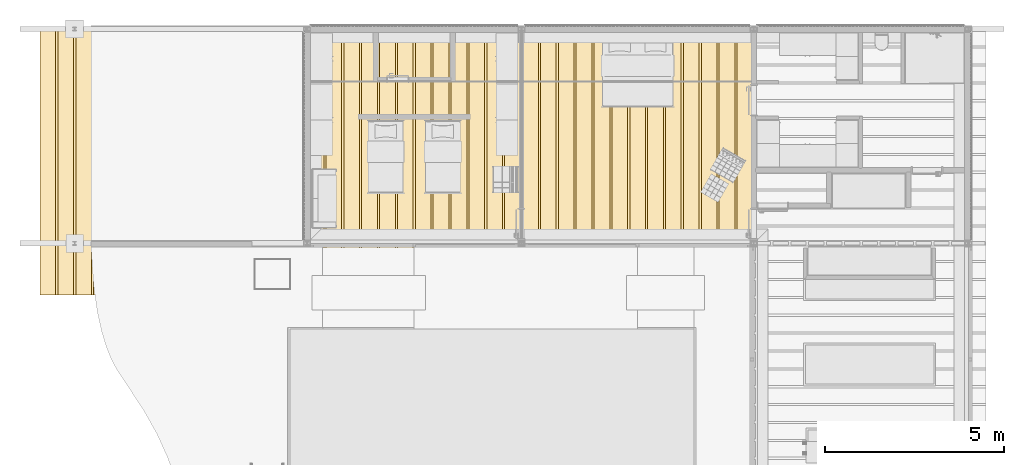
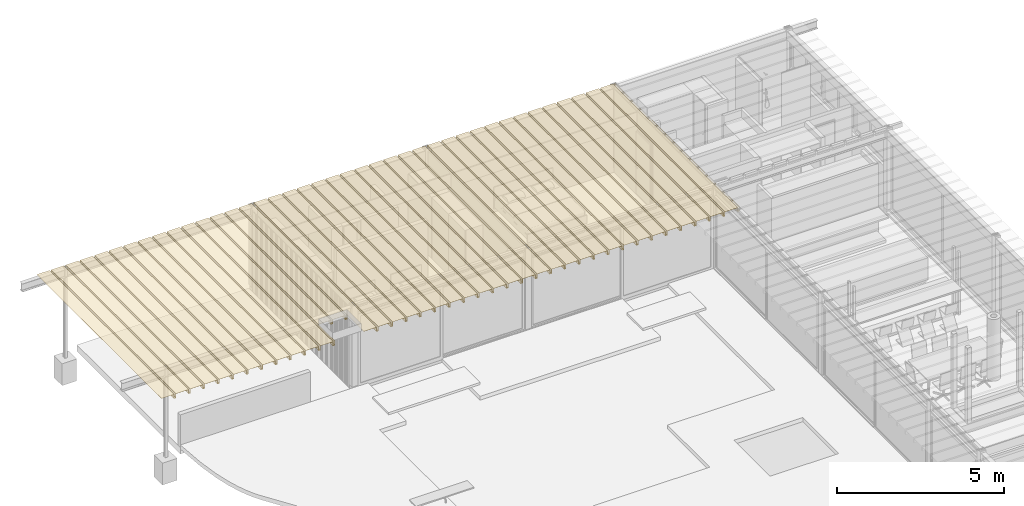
# One storey, part 19 of 28: 1 covering.
"""IFC4X3_ADD2 building model written with IfcOpenShell, lengths in metres."""

from ifc_helpers import new_model, si_unit, direction, frame, origin_with_axes, place, context, subcontext, project, spatial, polyline, outline, extrude, source, transform, mapped, material, type_object, type_shapes, element, save


model = new_model("IFC4X3_ADD2")

# Units and contexts
model_context = context("Model", 3, precision=1e-05, world=origin_with_axes(), true_north=direction((0.0, 1.0)))
body_context = subcontext(model_context, "Body", "Model", "MODEL_VIEW")
ifc_project = project(units=[si_unit("LENGTHUNIT", "METRE"), si_unit("AREAUNIT", "SQUARE_METRE"), si_unit("VOLUMEUNIT", "CUBIC_METRE"), si_unit("PLANEANGLEUNIT", "RADIAN"), si_unit("TIMEUNIT", "SECOND"), si_unit("MASSUNIT", "GRAM")], contexts=[model_context])

# Site, building, storey
site_placement = place(None, origin_with_axes())
site = spatial("IfcSite", under=ifc_project, at=site_placement, Name="Site", CompositionType="ELEMENT")
building_placement = place(site_placement, origin_with_axes())
building = spatial("IfcBuilding", under=site, at=building_placement, Name="Default Building")
storey_placement = place(building_placement, frame((0.0, 0.0, -0.08), z_axis=(0.0, 0.0, 1.0), x_axis=(1.0, 0.0, 0.0)))
storey = spatial("IfcBuildingStorey", under=building, at=storey_placement, Name="Gruendung", Elevation=-0.08)

# Covering
ifc_material = material(Name="Default")
covering_type = type_object("IfcCoveringType", Name="IfcCovering", PredefinedType="NOTDEFINED")
shared_shape = source(origin_with_axes(), body_context, "Body", "SweptSolid", [
    extrude(outline(polyline([(0.1289999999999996, 0.09600000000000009), (0.1289999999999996, -0.06400000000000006), (0.1240000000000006, -0.06400000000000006), (0.1240000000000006, 0.09100000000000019), (0.06400000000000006, 0.09100000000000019), (0.06400000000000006, -0.06400000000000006), (-0.3759999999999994, -0.06400000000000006), (-0.3759999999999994, -0.05899999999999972), (0.05899999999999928, -0.05899999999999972), (0.05899999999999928, 0.09600000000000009), (0.1289999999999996, 0.09600000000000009)])), frame((14.406, 14.563, 2.996005), z_axis=(0.0, 1.0, 0.0), x_axis=(1.0, 0.0, 0.0)), (0.0, 0.0, 1.0), 7.476999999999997),
    extrude(outline(polyline([(0.1289999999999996, 0.09600000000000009), (0.1289999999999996, -0.06400000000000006), (0.1240000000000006, -0.06400000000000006), (0.1240000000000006, 0.09100000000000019), (0.06400000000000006, 0.09100000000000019), (0.06400000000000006, -0.06400000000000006), (-0.3759999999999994, -0.06400000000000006), (-0.3759999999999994, -0.05899999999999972), (0.05899999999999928, -0.05899999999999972), (0.05899999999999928, 0.09600000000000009), (0.1289999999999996, 0.09600000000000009)])), frame((14.906, 14.563, 2.996005), z_axis=(0.0, 1.0, 0.0), x_axis=(1.0, 0.0, 0.0)), (0.0, 0.0, 1.0), 7.476999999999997),
    extrude(outline(polyline([(0.1289999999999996, 0.09600000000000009), (0.1289999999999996, -0.06400000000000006), (0.1240000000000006, -0.06400000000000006), (0.1240000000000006, 0.09100000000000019), (0.06400000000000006, 0.09100000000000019), (0.06400000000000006, -0.06400000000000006), (-0.3759999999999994, -0.06400000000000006), (-0.3759999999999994, -0.05899999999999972), (0.05899999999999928, -0.05899999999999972), (0.05899999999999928, 0.09600000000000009), (0.1289999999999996, 0.09600000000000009)])), frame((16.406, 14.563, 2.996005), z_axis=(0.0, 1.0, 0.0), x_axis=(1.0, 0.0, 0.0)), (0.0, 0.0, 1.0), 7.476999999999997),
    extrude(outline(polyline([(0.1289999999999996, 0.09600000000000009), (0.1289999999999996, -0.06400000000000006), (0.1240000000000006, -0.06400000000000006), (0.1240000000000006, 0.09100000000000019), (0.06400000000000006, 0.09100000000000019), (0.06400000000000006, -0.06400000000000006), (-0.3759999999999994, -0.06400000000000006), (-0.3759999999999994, -0.05899999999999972), (0.05899999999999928, -0.05899999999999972), (0.05899999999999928, 0.09600000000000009), (0.1289999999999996, 0.09600000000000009)])), frame((11.406, 14.563, 2.996005), z_axis=(0.0, 1.0, 0.0), x_axis=(1.0, 0.0, 0.0)), (0.0, 0.0, 1.0), 7.476999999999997),
    extrude(outline(polyline([(0.1289999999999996, 0.09600000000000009), (0.1289999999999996, -0.06400000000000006), (0.1240000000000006, -0.06400000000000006), (0.1240000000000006, 0.09100000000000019), (0.06400000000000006, 0.09100000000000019), (0.06400000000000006, -0.06400000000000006), (-0.3759999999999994, -0.06400000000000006), (-0.3759999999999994, -0.05899999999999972), (0.05899999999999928, -0.05899999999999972), (0.05899999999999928, 0.09600000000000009), (0.1289999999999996, 0.09600000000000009)])), frame((10.906, 14.563, 2.996005), z_axis=(0.0, 1.0, 0.0), x_axis=(1.0, 0.0, 0.0)), (0.0, 0.0, 1.0), 7.476999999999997),
    extrude(outline(polyline([(0.1289999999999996, 0.09600000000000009), (0.1289999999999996, -0.06400000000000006), (0.1240000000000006, -0.06400000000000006), (0.1240000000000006, 0.09100000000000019), (0.06400000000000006, 0.09100000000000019), (0.06400000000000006, -0.06400000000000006), (-0.3759999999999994, -0.06400000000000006), (-0.3759999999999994, -0.05899999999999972), (0.05899999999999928, -0.05899999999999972), (0.05899999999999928, 0.09600000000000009), (0.1289999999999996, 0.09600000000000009)])), frame((16.906, 14.563, 2.996005), z_axis=(0.0, 1.0, 0.0), x_axis=(1.0, 0.0, 0.0)), (0.0, 0.0, 1.0), 7.476999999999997),
    extrude(outline(polyline([(0.1289999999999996, 0.09600000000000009), (0.1289999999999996, -0.06400000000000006), (0.1240000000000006, -0.06400000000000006), (0.1240000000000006, 0.09100000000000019), (0.06400000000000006, 0.09100000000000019), (0.06400000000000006, -0.06400000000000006), (-0.3759999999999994, -0.06400000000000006), (-0.3759999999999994, -0.05899999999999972), (0.05899999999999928, -0.05899999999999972), (0.05899999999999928, 0.09600000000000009), (0.1289999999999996, 0.09600000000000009)])), frame((6.906000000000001, 14.563, 2.996005), z_axis=(0.0, 1.0, 0.0), x_axis=(1.0, 0.0, 0.0)), (0.0, 0.0, 1.0), 7.476999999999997),
    extrude(outline(polyline([(0.1289999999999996, 0.09600000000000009), (0.1289999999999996, -0.06400000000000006), (0.1240000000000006, -0.06400000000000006), (0.1240000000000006, 0.09100000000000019), (0.06400000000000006, 0.09100000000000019), (0.06400000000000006, -0.06400000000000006), (-0.3759999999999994, -0.06400000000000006), (-0.3759999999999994, -0.05899999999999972), (0.05899999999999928, -0.05899999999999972), (0.05899999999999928, 0.09600000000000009), (0.1289999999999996, 0.09600000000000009)])), frame((0.406, 14.563, 2.996005), z_axis=(0.0, 1.0, 0.0), x_axis=(1.0, 0.0, 0.0)), (0.0, 0.0, 1.0), 7.476999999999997),
    extrude(outline(polyline([(0.1289999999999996, 0.09600000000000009), (0.1289999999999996, -0.06400000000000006), (0.1240000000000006, -0.06400000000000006), (0.1240000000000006, 0.09100000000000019), (0.06400000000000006, 0.09100000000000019), (0.06400000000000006, -0.06400000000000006), (-0.3759999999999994, -0.06400000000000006), (-0.3759999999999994, -0.05899999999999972), (0.05899999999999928, -0.05899999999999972), (0.05899999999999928, 0.09600000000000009), (0.1289999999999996, 0.09600000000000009)])), frame((18.906, 14.563, 2.996005), z_axis=(0.0, 1.0, 0.0), x_axis=(1.0, 0.0, 0.0)), (0.0, 0.0, 1.0), 7.476999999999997),
    extrude(outline(polyline([(0.1289999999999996, 0.09600000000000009), (0.1289999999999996, -0.06400000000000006), (0.1240000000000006, -0.06400000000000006), (0.1240000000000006, 0.09100000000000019), (0.06400000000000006, 0.09100000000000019), (0.06400000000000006, -0.06400000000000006), (-0.3759999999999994, -0.06400000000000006), (-0.3759999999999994, -0.05899999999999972), (0.05899999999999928, -0.05899999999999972), (0.05899999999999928, 0.09600000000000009), (0.1289999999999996, 0.09600000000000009)])), frame((12.906, 14.563, 2.996005), z_axis=(0.0, 1.0, 0.0), x_axis=(1.0, 0.0, 0.0)), (0.0, 0.0, 1.0), 7.476999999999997),
    extrude(outline(polyline([(0.1289999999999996, 0.09600000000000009), (0.1289999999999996, -0.06400000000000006), (0.1240000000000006, -0.06400000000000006), (0.1240000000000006, 0.09100000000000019), (0.06400000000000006, 0.09100000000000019), (0.06400000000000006, -0.06400000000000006), (-0.3759999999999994, -0.06400000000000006), (-0.3759999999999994, -0.05899999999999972), (0.05899999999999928, -0.05899999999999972), (0.05899999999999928, 0.09600000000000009), (0.1289999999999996, 0.09600000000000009)])), frame((7.406000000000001, 14.563, 2.996005), z_axis=(0.0, 1.0, 0.0), x_axis=(1.0, 0.0, 0.0)), (0.0, 0.0, 1.0), 7.476999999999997),
    extrude(outline(polyline([(0.1289999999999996, 0.09600000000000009), (0.1289999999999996, -0.06400000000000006), (0.1240000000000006, -0.06400000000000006), (0.1240000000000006, 0.09100000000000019), (0.06400000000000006, 0.09100000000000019), (0.06400000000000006, -0.06400000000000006), (-0.3759999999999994, -0.06400000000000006), (-0.3759999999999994, -0.05899999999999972), (0.05899999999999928, -0.05899999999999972), (0.05899999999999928, 0.09600000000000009), (0.1289999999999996, 0.09600000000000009)])), frame((15.406, 14.563, 2.996005), z_axis=(0.0, 1.0, 0.0), x_axis=(1.0, 0.0, 0.0)), (0.0, 0.0, 1.0), 7.476999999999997),
    extrude(outline(polyline([(0.1289999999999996, 0.09600000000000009), (0.1289999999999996, -0.06400000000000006), (0.1240000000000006, -0.06400000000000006), (0.1240000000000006, 0.09100000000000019), (0.06400000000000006, 0.09100000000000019), (0.06400000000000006, -0.06400000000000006), (-0.3759999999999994, -0.06400000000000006), (-0.3759999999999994, -0.05899999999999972), (0.05899999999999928, -0.05899999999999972), (0.05899999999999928, 0.09600000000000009), (0.1289999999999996, 0.09600000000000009)])), frame((3.906000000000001, 14.563, 2.996005), z_axis=(0.0, 1.0, 0.0), x_axis=(1.0, 0.0, 0.0)), (0.0, 0.0, 1.0), 7.476999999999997),
    extrude(outline(polyline([(0.1289999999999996, 0.09600000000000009), (0.1289999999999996, -0.06400000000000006), (0.1240000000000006, -0.06400000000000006), (0.1240000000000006, 0.09100000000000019), (0.06400000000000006, 0.09100000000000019), (0.06400000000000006, -0.06400000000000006), (-0.3759999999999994, -0.06400000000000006), (-0.3759999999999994, -0.05899999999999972), (0.05899999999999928, -0.05899999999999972), (0.05899999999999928, 0.09600000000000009), (0.1289999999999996, 0.09600000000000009)])), frame((1.406, 14.563, 2.996005), z_axis=(0.0, 1.0, 0.0), x_axis=(1.0, 0.0, 0.0)), (0.0, 0.0, 1.0), 7.476999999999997),
    extrude(outline(polyline([(0.1289999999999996, 0.09600000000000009), (0.1289999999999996, -0.06400000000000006), (0.1240000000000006, -0.06400000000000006), (0.1240000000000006, 0.09100000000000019), (0.06400000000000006, 0.09100000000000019), (0.06400000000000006, -0.06400000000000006), (-0.3759999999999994, -0.06400000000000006), (-0.3759999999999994, -0.05899999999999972), (0.05899999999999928, -0.05899999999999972), (0.05899999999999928, 0.09600000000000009), (0.1289999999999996, 0.09600000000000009)])), frame((4.406000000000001, 14.563, 2.996005), z_axis=(0.0, 1.0, 0.0), x_axis=(1.0, 0.0, 0.0)), (0.0, 0.0, 1.0), 7.476999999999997),
    extrude(outline(polyline([(0.1289999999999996, 0.09600000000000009), (0.1289999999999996, -0.06400000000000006), (0.1240000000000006, -0.06400000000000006), (0.1240000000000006, 0.09100000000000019), (0.06400000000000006, 0.09100000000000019), (0.06400000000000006, -0.06400000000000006), (-0.3759999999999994, -0.06400000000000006), (-0.3759999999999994, -0.05899999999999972), (0.05899999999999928, -0.05899999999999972), (0.05899999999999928, 0.09600000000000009), (0.1289999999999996, 0.09600000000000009)])), frame((6.406000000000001, 14.563, 2.996005), z_axis=(0.0, 1.0, 0.0), x_axis=(1.0, 0.0, 0.0)), (0.0, 0.0, 1.0), 7.476999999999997),
    extrude(outline(polyline([(0.1289999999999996, 0.09600000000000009), (0.1289999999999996, -0.06400000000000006), (0.1240000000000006, -0.06400000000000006), (0.1240000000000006, 0.09100000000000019), (0.06400000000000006, 0.09100000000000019), (0.06400000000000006, -0.06400000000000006), (-0.3759999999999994, -0.06400000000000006), (-0.3759999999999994, -0.05899999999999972), (0.05899999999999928, -0.05899999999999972), (0.05899999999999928, 0.09600000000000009), (0.1289999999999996, 0.09600000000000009)])), frame((4.906000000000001, 14.563, 2.996005), z_axis=(0.0, 1.0, 0.0), x_axis=(1.0, 0.0, 0.0)), (0.0, 0.0, 1.0), 7.476999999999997),
    extrude(outline(polyline([(0.1289999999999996, 0.09600000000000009), (0.1289999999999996, -0.06400000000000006), (0.1240000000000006, -0.06400000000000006), (0.1240000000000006, 0.09100000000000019), (0.06400000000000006, 0.09100000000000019), (0.06400000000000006, -0.06400000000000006), (-0.3759999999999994, -0.06400000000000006), (-0.3759999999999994, -0.05899999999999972), (0.05899999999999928, -0.05899999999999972), (0.05899999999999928, 0.09600000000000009), (0.1289999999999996, 0.09600000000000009)])), frame((7.906000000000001, 14.563, 2.996005), z_axis=(0.0, 1.0, 0.0), x_axis=(1.0, 0.0, 0.0)), (0.0, 0.0, 1.0), 7.476999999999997),
    extrude(outline(polyline([(0.1289999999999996, 0.09600000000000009), (0.1289999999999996, -0.06400000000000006), (0.1240000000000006, -0.06400000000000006), (0.1240000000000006, 0.09100000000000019), (0.06400000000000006, 0.09100000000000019), (0.06400000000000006, -0.06400000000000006), (-0.3759999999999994, -0.06400000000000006), (-0.3759999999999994, -0.05899999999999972), (0.05899999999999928, -0.05899999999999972), (0.05899999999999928, 0.09600000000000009), (0.1289999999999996, 0.09600000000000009)])), frame((17.406, 14.563, 2.996005), z_axis=(0.0, 1.0, 0.0), x_axis=(1.0, 0.0, 0.0)), (0.0, 0.0, 1.0), 7.476999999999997),
    extrude(outline(polyline([(0.1289999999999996, 0.09600000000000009), (0.1289999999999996, -0.06400000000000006), (0.1240000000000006, -0.06400000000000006), (0.1240000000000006, 0.09100000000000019), (0.06400000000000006, 0.09100000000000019), (0.06400000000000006, -0.06400000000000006), (-0.3759999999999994, -0.06400000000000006), (-0.3759999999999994, -0.05899999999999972), (0.05899999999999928, -0.05899999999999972), (0.05899999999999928, 0.09600000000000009), (0.1289999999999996, 0.09600000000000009)])), frame((5.406000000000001, 15.563, 2.996005), z_axis=(0.0, 1.0, 0.0), x_axis=(1.0, 0.0, 0.0)), (0.0, 0.0, 1.0), 6.476999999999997),
    extrude(outline(polyline([(0.1289999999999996, 0.09600000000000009), (0.1289999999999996, -0.06400000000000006), (0.1240000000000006, -0.06400000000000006), (0.1240000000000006, 0.09100000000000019), (0.06400000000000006, 0.09100000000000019), (0.06400000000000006, -0.06400000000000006), (-0.3759999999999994, -0.06400000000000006), (-0.3759999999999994, -0.05899999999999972), (0.05899999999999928, -0.05899999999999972), (0.05899999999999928, 0.09600000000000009), (0.1289999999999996, 0.09600000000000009)])), frame((18.406, 14.563, 2.996005), z_axis=(0.0, 1.0, 0.0), x_axis=(1.0, 0.0, 0.0)), (0.0, 0.0, 1.0), 7.476999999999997),
    extrude(outline(polyline([(0.1289999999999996, 0.09600000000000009), (0.1289999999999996, -0.06400000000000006), (0.1240000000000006, -0.06400000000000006), (0.1240000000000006, 0.09100000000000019), (0.06400000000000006, 0.09100000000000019), (0.06400000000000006, -0.06400000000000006), (-0.3759999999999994, -0.06400000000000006), (-0.3759999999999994, -0.05899999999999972), (0.05899999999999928, -0.05899999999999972), (0.05899999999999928, 0.09600000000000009), (0.1289999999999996, 0.09600000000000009)])), frame((5.906000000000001, 15.563, 2.996005), z_axis=(0.0, 1.0, 0.0), x_axis=(1.0, 0.0, 0.0)), (0.0, 0.0, 1.0), 6.476999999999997),
    extrude(outline(polyline([(0.1289999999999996, 0.09600000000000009), (0.1289999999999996, -0.06400000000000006), (0.1240000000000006, -0.06400000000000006), (0.1240000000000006, 0.09100000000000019), (0.06400000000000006, 0.09100000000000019), (0.06400000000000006, -0.06400000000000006), (-0.3759999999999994, -0.06400000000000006), (-0.3759999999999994, -0.05899999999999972), (0.05899999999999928, -0.05899999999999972), (0.05899999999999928, 0.09600000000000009), (0.1289999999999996, 0.09600000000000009)])), frame((8.906, 14.563, 2.996005), z_axis=(0.0, 1.0, 0.0), x_axis=(1.0, 0.0, 0.0)), (0.0, 0.0, 1.0), 7.476999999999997),
    extrude(outline(polyline([(0.1289999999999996, 0.09600000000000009), (0.1289999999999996, -0.06400000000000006), (0.1240000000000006, -0.06400000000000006), (0.1240000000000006, 0.09100000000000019), (0.06400000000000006, 0.09100000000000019), (0.06400000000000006, -0.06400000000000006), (-0.3759999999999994, -0.06400000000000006), (-0.3759999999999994, -0.05899999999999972), (0.05899999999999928, -0.05899999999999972), (0.05899999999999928, 0.09600000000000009), (0.1289999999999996, 0.09600000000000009)])), frame((0.906, 14.563, 2.996005), z_axis=(0.0, 1.0, 0.0), x_axis=(1.0, 0.0, 0.0)), (0.0, 0.0, 1.0), 7.476999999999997),
    extrude(outline(polyline([(0.1289999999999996, 0.09600000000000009), (0.1289999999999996, -0.06400000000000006), (0.1240000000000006, -0.06400000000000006), (0.1240000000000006, 0.09100000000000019), (0.06400000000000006, 0.09100000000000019), (0.06400000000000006, -0.06400000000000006), (-0.3759999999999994, -0.06400000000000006), (-0.3759999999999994, -0.05899999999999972), (0.05899999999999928, -0.05899999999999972), (0.05899999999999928, 0.09600000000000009), (0.1289999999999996, 0.09600000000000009)])), frame((-0.5940000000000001, 14.563, 2.996005), z_axis=(0.0, 1.0, 0.0), x_axis=(1.0, 0.0, 0.0)), (0.0, 0.0, 1.0), 7.476999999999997),
    extrude(outline(polyline([(0.1289999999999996, 0.09600000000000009), (0.1289999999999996, -0.06400000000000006), (0.1240000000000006, -0.06400000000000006), (0.1240000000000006, 0.09100000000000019), (0.06400000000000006, 0.09100000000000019), (0.06400000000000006, -0.06400000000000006), (-0.3759999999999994, -0.06400000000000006), (-0.3759999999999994, -0.05899999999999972), (0.05899999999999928, -0.05899999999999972), (0.05899999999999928, 0.09600000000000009), (0.1289999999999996, 0.09600000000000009)])), frame((11.906, 14.563, 2.996005), z_axis=(0.0, 1.0, 0.0), x_axis=(1.0, 0.0, 0.0)), (0.0, 0.0, 1.0), 7.476999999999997),
    extrude(outline(polyline([(0.1289999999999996, 0.09600000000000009), (0.1289999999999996, -0.06400000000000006), (0.1240000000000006, -0.06400000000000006), (0.1240000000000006, 0.09100000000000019), (0.06400000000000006, 0.09100000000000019), (0.06400000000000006, -0.06400000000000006), (-0.3759999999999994, -0.06400000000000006), (-0.3759999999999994, -0.05899999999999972), (0.05899999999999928, -0.05899999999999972), (0.05899999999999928, 0.09600000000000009), (0.1289999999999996, 0.09600000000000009)])), frame((-0.09400000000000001, 14.563, 2.996005), z_axis=(0.0, 1.0, 0.0), x_axis=(1.0, 0.0, 0.0)), (0.0, 0.0, 1.0), 7.476999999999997),
    extrude(outline(polyline([(0.1289999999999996, 0.09600000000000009), (0.1289999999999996, -0.06400000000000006), (0.1240000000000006, -0.06400000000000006), (0.1240000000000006, 0.09100000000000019), (0.06400000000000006, 0.09100000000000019), (0.06400000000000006, -0.06400000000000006), (-0.3759999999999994, -0.06400000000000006), (-0.3759999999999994, -0.05899999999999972), (0.05899999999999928, -0.05899999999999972), (0.05899999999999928, 0.09600000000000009), (0.1289999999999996, 0.09600000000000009)])), frame((10.406, 14.563, 2.996005), z_axis=(0.0, 1.0, 0.0), x_axis=(1.0, 0.0, 0.0)), (0.0, 0.0, 1.0), 7.476999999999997),
    extrude(outline(polyline([(0.1289999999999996, 0.09600000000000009), (0.1289999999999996, -0.06400000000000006), (0.1240000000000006, -0.06400000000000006), (0.1240000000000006, 0.09100000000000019), (0.06400000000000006, 0.09100000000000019), (0.06400000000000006, -0.06400000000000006), (-0.3759999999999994, -0.06400000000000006), (-0.3759999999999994, -0.05899999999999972), (0.05899999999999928, -0.05899999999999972), (0.05899999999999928, 0.09600000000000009), (0.1289999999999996, 0.09600000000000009)])), frame((9.906, 14.563, 2.996005), z_axis=(0.0, 1.0, 0.0), x_axis=(1.0, 0.0, 0.0)), (0.0, 0.0, 1.0), 7.476999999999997),
    extrude(outline(polyline([(0.1289999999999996, 0.09600000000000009), (0.1289999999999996, -0.06400000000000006), (0.1240000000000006, -0.06400000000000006), (0.1240000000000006, 0.09100000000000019), (0.06400000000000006, 0.09100000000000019), (0.06400000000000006, -0.06400000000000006), (-0.3759999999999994, -0.06400000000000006), (-0.3759999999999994, -0.05899999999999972), (0.05899999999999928, -0.05899999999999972), (0.05899999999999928, 0.09600000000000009), (0.1289999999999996, 0.09600000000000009)])), frame((8.406, 14.563, 2.996005), z_axis=(0.0, 1.0, 0.0), x_axis=(1.0, 0.0, 0.0)), (0.0, 0.0, 1.0), 7.476999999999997),
    extrude(outline(polyline([(0.1289999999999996, 0.09600000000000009), (0.1289999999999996, -0.06400000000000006), (0.1240000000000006, -0.06400000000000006), (0.1240000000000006, 0.09100000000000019), (0.06400000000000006, 0.09100000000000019), (0.06400000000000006, -0.06400000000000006), (-0.3759999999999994, -0.06400000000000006), (-0.3759999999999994, -0.05899999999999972), (0.05899999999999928, -0.05899999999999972), (0.05899999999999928, 0.09600000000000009), (0.1289999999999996, 0.09600000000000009)])), frame((13.406, 14.563, 2.996005), z_axis=(0.0, 1.0, 0.0), x_axis=(1.0, 0.0, 0.0)), (0.0, 0.0, 1.0), 7.476999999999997),
    extrude(outline(polyline([(0.1289999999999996, 0.09600000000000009), (0.1289999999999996, -0.06400000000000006), (0.1240000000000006, -0.06400000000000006), (0.1240000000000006, 0.09100000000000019), (0.06400000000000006, 0.09100000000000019), (0.06400000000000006, -0.06400000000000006), (-0.3759999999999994, -0.06400000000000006), (-0.3759999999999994, -0.05899999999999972), (0.05899999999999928, -0.05899999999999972), (0.05899999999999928, 0.09600000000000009), (0.1289999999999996, 0.09600000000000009)])), frame((17.906, 14.563, 2.996005), z_axis=(0.0, 1.0, 0.0), x_axis=(1.0, 0.0, 0.0)), (0.0, 0.0, 1.0), 7.476999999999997),
    extrude(outline(polyline([(0.1289999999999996, 0.09600000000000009), (0.1289999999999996, -0.06400000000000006), (0.1240000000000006, -0.06400000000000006), (0.1240000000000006, 0.09100000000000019), (0.06400000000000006, 0.09100000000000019), (0.06400000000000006, -0.06400000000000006), (-0.3759999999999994, -0.06400000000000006), (-0.3759999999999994, -0.05899999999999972), (0.05899999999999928, -0.05899999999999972), (0.05899999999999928, 0.09600000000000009), (0.1289999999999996, 0.09600000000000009)])), frame((2.406, 14.563, 2.996005), z_axis=(0.0, 1.0, 0.0), x_axis=(1.0, 0.0, 0.0)), (0.0, 0.0, 1.0), 7.476999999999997),
    extrude(outline(polyline([(0.1289999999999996, 0.09600000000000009), (0.1289999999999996, -0.06400000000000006), (0.1240000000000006, -0.06400000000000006), (0.1240000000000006, 0.09100000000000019), (0.06400000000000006, 0.09100000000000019), (0.06400000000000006, -0.06400000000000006), (-0.3759999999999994, -0.06400000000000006), (-0.3759999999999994, -0.05899999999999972), (0.05899999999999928, -0.05899999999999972), (0.05899999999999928, 0.09600000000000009), (0.1289999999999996, 0.09600000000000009)])), frame((1.906, 14.563, 2.996005), z_axis=(0.0, 1.0, 0.0), x_axis=(1.0, 0.0, 0.0)), (0.0, 0.0, 1.0), 7.476999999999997),
    extrude(outline(polyline([(0.1289999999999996, 0.09600000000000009), (0.1289999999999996, -0.06400000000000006), (0.1240000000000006, -0.06400000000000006), (0.1240000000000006, 0.09100000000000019), (0.06400000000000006, 0.09100000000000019), (0.06400000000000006, -0.06400000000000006), (-0.3759999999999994, -0.06400000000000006), (-0.3759999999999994, -0.05899999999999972), (0.05899999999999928, -0.05899999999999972), (0.05899999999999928, 0.09600000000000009), (0.1289999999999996, 0.09600000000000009)])), frame((15.906, 14.563, 2.996005), z_axis=(0.0, 1.0, 0.0), x_axis=(1.0, 0.0, 0.0)), (0.0, 0.0, 1.0), 7.476999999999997),
    extrude(outline(polyline([(0.1289999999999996, 0.09600000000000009), (0.1289999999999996, -0.06400000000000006), (0.1240000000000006, -0.06400000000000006), (0.1240000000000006, 0.09100000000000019), (0.06400000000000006, 0.09100000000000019), (0.06400000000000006, -0.06400000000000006), (-0.3759999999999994, -0.06400000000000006), (-0.3759999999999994, -0.05899999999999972), (0.05899999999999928, -0.05899999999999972), (0.05899999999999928, 0.09600000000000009), (0.1289999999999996, 0.09600000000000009)])), frame((2.906000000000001, 14.563, 2.996005), z_axis=(0.0, 1.0, 0.0), x_axis=(1.0, 0.0, 0.0)), (0.0, 0.0, 1.0), 7.476999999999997),
    extrude(outline(polyline([(0.1289999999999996, 0.09600000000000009), (0.1289999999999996, -0.06400000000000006), (0.1240000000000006, -0.06400000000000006), (0.1240000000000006, 0.09100000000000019), (0.06400000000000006, 0.09100000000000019), (0.06400000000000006, -0.06400000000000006), (-0.3759999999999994, -0.06400000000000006), (-0.3759999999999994, -0.05899999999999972), (0.05899999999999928, -0.05899999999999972), (0.05899999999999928, 0.09600000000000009), (0.1289999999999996, 0.09600000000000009)])), frame((3.406, 14.563, 2.996005), z_axis=(0.0, 1.0, 0.0), x_axis=(1.0, 0.0, 0.0)), (0.0, 0.0, 1.0), 7.476999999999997),
    extrude(outline(polyline([(0.1289999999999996, 0.09600000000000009), (0.1289999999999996, -0.06400000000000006), (0.1240000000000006, -0.06400000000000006), (0.1240000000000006, 0.09100000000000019), (0.06400000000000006, 0.09100000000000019), (0.06400000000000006, -0.06400000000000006), (-0.3759999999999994, -0.06400000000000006), (-0.3759999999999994, -0.05899999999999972), (0.05899999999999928, -0.05899999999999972), (0.05899999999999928, 0.09600000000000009), (0.1289999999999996, 0.09600000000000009)])), frame((13.906, 14.563, 2.996005), z_axis=(0.0, 1.0, 0.0), x_axis=(1.0, 0.0, 0.0)), (0.0, 0.0, 1.0), 7.476999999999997),
    extrude(outline(polyline([(0.1289999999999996, 0.09600000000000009), (0.1289999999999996, -0.06400000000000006), (0.1240000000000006, -0.06400000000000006), (0.1240000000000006, 0.09100000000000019), (0.06400000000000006, 0.09100000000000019), (0.06400000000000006, -0.06400000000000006), (-0.3759999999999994, -0.06400000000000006), (-0.3759999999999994, -0.05899999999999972), (0.05899999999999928, -0.05899999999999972), (0.05899999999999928, 0.09600000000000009), (0.1289999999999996, 0.09600000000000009)])), frame((9.406, 14.563, 2.996005), z_axis=(0.0, 1.0, 0.0), x_axis=(1.0, 0.0, 0.0)), (0.0, 0.0, 1.0), 7.476999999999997),
    extrude(outline(polyline([(0.1289999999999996, 0.09600000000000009), (0.1289999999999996, -0.06400000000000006), (0.1240000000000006, -0.06400000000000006), (0.1240000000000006, 0.09100000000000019), (0.06400000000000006, 0.09100000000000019), (0.06400000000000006, -0.06400000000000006), (-0.3759999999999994, -0.06400000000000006), (-0.3759999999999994, -0.05899999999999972), (0.05899999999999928, -0.05899999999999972), (0.05899999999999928, 0.09600000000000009), (0.1289999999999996, 0.09600000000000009)])), frame((12.406, 14.563, 2.996005), z_axis=(0.0, 1.0, 0.0), x_axis=(1.0, 0.0, 0.0)), (0.0, 0.0, 1.0), 7.476999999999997),
])
type_shapes(covering_type, [shared_shape])
covering_placement = place(storey_placement, origin_with_axes())
element("IfcCovering", 1, at=covering_placement, inside=storey, type_object=covering_type, material=ifc_material, Name="IfcCovering", context=body_context, shape_type="MappedRepresentation", body=[
    mapped(shared_shape, transform((0.0, 0.0, 0.0))),
])

save(model, "model.ifc")
